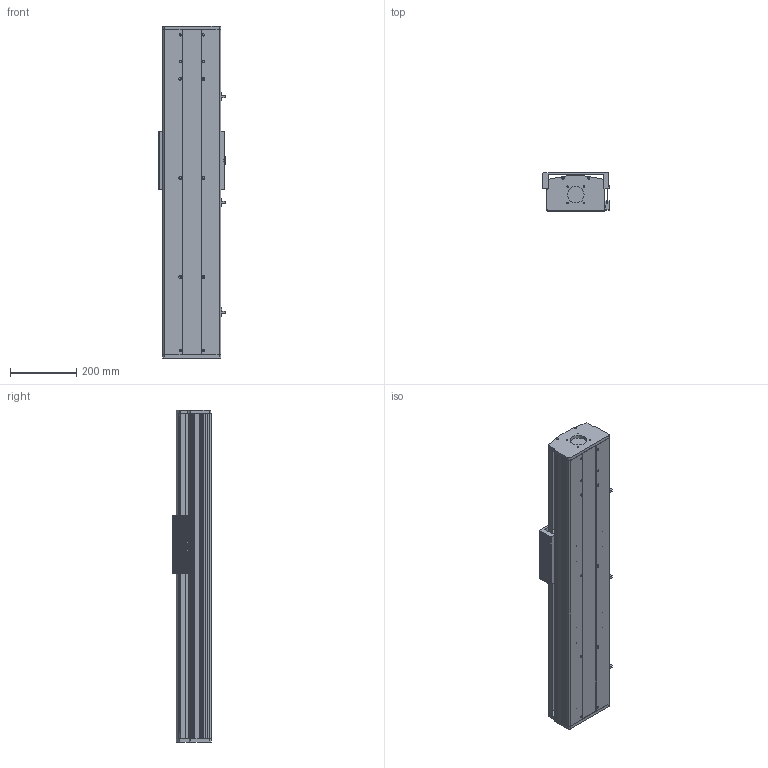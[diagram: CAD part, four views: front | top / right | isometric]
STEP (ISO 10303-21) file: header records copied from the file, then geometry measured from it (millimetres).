
FILE_DESCRIPTION (( 'STEP AP203' ), '1' );
FILE_NAME ('CF175B-C-650-FW.STEP', '2020-07-15T01:53:25', ( 'Micorosoft' ), ( 'Micorosoft' ), 'SwSTEP 2.0', 'SolidWorks 2016', '' );
FILE_SCHEMA (( 'CONFIG_CONTROL_DESIGN' ));
Length unit declared in the file: millimetre
Products named in the file (12): CF175-2蹟譫釱; CF175B-C-650-FW; 175B裔啣-650; 175B臏倰第-650; EGR20絳寢-650; CF175-2賑雄啣; 75-86-95癹弇羲壽覜茼え; CF-EGH20CA賑輸; 175-2耜啣; 175B珨极嘐隅釱; 175-2盓傅釱; 嫖萇羲壽
Assembly tree (17 placements, depth 2):
  CF175B-C-650-FW
    175-2耜啣
    175-2盓傅釱
    CF175-2蹟譫釱
    175B裔啣-650
    175B臏倰第-650
    EGR20絳寢-650  x2
    CF175-2賑雄啣
    75-86-95癹弇羲壽覜茼え
    CF-EGH20CA賑輸  x4
    175B珨极嘐隅釱
    嫖萇羲壽  x3
Bounding box: 201.1 x 116.8 x 1005 mm (x, y, z)
Volume: 8174898.8 mm3; surface area: 2103168.8 mm2
Topology: 23 solids, 23 shells, 1373 faces, 3594 edges, 2388 vertices
Faces by surface type: plane 715, cylinder 652, cone 4, bspline 2
Entity records: 33256 total; most frequent: DIRECTION 5719, CARTESIAN_POINT 5622, ORIENTED_EDGE 5272, EDGE_CURVE 2636, AXIS2_PLACEMENT_3D 2089, VERTEX_POINT 1752, VECTOR 1541, LINE 1541
